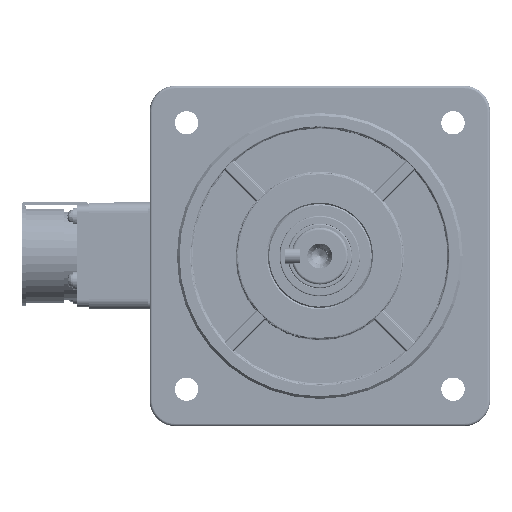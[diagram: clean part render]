
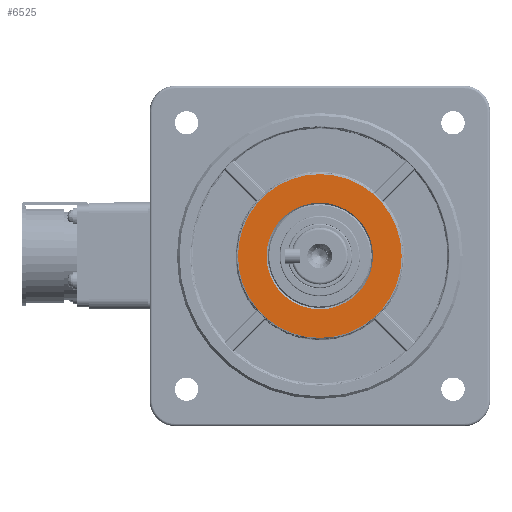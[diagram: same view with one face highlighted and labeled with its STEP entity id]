
A CAD part, left-side view. The second image highlights one B-rep face of the part: STEP entity #6525.
In plain terms, the highlighted planar face has unit normal (-1, 0, 0) as drawn and (1, 0, 0) by its records, which use the part's own axes.
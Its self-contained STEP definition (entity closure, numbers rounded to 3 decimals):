
#5044 = CARTESIAN_POINT ( 'NONE',  ( 30., 0., 0. ) ) ;
#6525 = ADVANCED_FACE ( 'NONE', ( #86274, #131930 ), #29475, .F. ) ;
#7782 = ORIENTED_EDGE ( 'NONE', *, *, #70207, .T. ) ;
#18228 = DIRECTION ( 'NONE',  ( 0., 0., 1. ) ) ;
#20587 = ORIENTED_EDGE ( 'NONE', *, *, #130384, .T. ) ;
#21573 = VERTEX_POINT ( 'NONE', #24996 ) ;
#24996 = CARTESIAN_POINT ( 'NONE',  ( 30., 0., -31.5 ) ) ;
#27078 = EDGE_LOOP ( 'NONE', ( #130334, #7782 ) ) ;
#29475 = PLANE ( 'NONE',  #73192 ) ;
#30909 = CARTESIAN_POINT ( 'NONE',  ( 30., 0., 0. ) ) ;
#34190 = DIRECTION ( 'NONE',  ( -1., 0., 0. ) ) ;
#36382 = EDGE_CURVE ( 'NONE', #21573, #87186, #106940, .T. ) ;
#36741 = AXIS2_PLACEMENT_3D ( 'NONE', #136661, #34190, #79752 ) ;
#42399 = AXIS2_PLACEMENT_3D ( 'NONE', #49251, #94886, #140545 ) ;
#49064 = CIRCLE ( 'NONE', #132675, 31.5 ) ;
#49251 = CARTESIAN_POINT ( 'NONE',  ( 30., 0., 0. ) ) ;
#50617 = DIRECTION ( 'NONE',  ( -1., 0., 0. ) ) ;
#64944 = ORIENTED_EDGE ( 'NONE', *, *, #36382, .T. ) ;
#70207 = EDGE_CURVE ( 'NONE', #106592, #126621, #142674, .T. ) ;
#73192 = AXIS2_PLACEMENT_3D ( 'NONE', #75030, #120681, #18228 ) ;
#75030 = CARTESIAN_POINT ( 'NONE',  ( 30., 20., 0. ) ) ;
#75355 = EDGE_LOOP ( 'NONE', ( #20587, #64944 ) ) ;
#76474 = DIRECTION ( 'NONE',  ( 1., 0., 0. ) ) ;
#78105 = AXIS2_PLACEMENT_3D ( 'NONE', #5044, #50617, #96258 ) ;
#79752 = DIRECTION ( 'NONE',  ( 0., 0., 1. ) ) ;
#86274 = FACE_BOUND ( 'NONE', #27078, .T. ) ;
#87186 = VERTEX_POINT ( 'NONE', #111430 ) ;
#87780 = EDGE_CURVE ( 'NONE', #126621, #106592, #101205, .T. ) ;
#94886 = DIRECTION ( 'NONE',  ( 1., 0., 0. ) ) ;
#96258 = DIRECTION ( 'NONE',  ( 0., 0., 1. ) ) ;
#101205 = CIRCLE ( 'NONE', #36741, 20.5 ) ;
#106592 = VERTEX_POINT ( 'NONE', #141952 ) ;
#106940 = CIRCLE ( 'NONE', #42399, 31.5 ) ;
#111430 = CARTESIAN_POINT ( 'NONE',  ( 30., 0., 31.5 ) ) ;
#120681 = DIRECTION ( 'NONE',  ( -1., 0., 0. ) ) ;
#122146 = DIRECTION ( 'NONE',  ( 0., 0., 1. ) ) ;
#126621 = VERTEX_POINT ( 'NONE', #142460 ) ;
#130334 = ORIENTED_EDGE ( 'NONE', *, *, #87780, .T. ) ;
#130384 = EDGE_CURVE ( 'NONE', #87186, #21573, #49064, .T. ) ;
#131930 = FACE_OUTER_BOUND ( 'NONE', #75355, .T. ) ;
#132675 = AXIS2_PLACEMENT_3D ( 'NONE', #30909, #76474, #122146 ) ;
#136661 = CARTESIAN_POINT ( 'NONE',  ( 30., 0., 0. ) ) ;
#140545 = DIRECTION ( 'NONE',  ( 0., 0., 1. ) ) ;
#141952 = CARTESIAN_POINT ( 'NONE',  ( 30., 0., 20.5 ) ) ;
#142460 = CARTESIAN_POINT ( 'NONE',  ( 30., 0., -20.5 ) ) ;
#142674 = CIRCLE ( 'NONE', #78105, 20.5 ) ;
